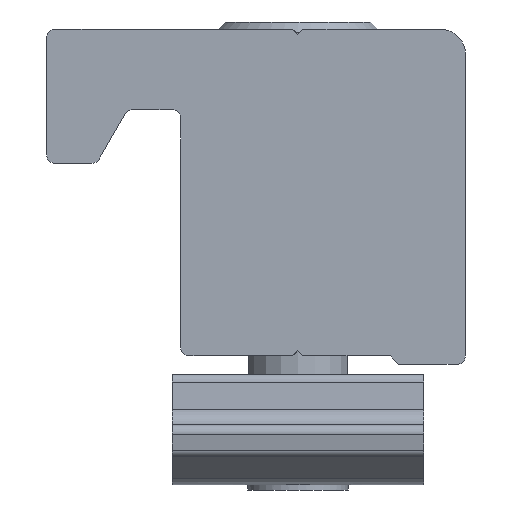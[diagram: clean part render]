
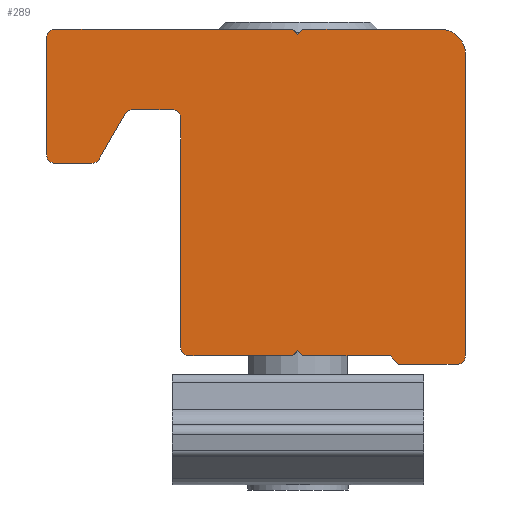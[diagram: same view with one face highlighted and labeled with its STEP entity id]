
A CAD part, front view. The second image highlights one B-rep face of the part: STEP entity #289.
In plain terms, the highlighted planar face has unit normal (0, -1, 0) as drawn and (0, 0, 1) by its records, which use the part's own axes.
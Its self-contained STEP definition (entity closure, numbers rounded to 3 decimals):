
#289=ADVANCED_FACE('',(#552),#553,.T.);
#552=FACE_OUTER_BOUND('',#814,.T.);
#553=PLANE('',#815);
#814=EDGE_LOOP('',(#1351,#1352,#1353,#1354,#1355,#1356,#1357,#1358,#1359,#1360,#1361,#1362,#1363,#1364,#1365,#1366,#1367,#1368,#1369,#1370,#1371,#1372,#1373,#1374));
#815=AXIS2_PLACEMENT_3D('',#1375,#1376,#1377);
#1351=ORIENTED_EDGE('',*,*,#1707,.T.);
#1352=ORIENTED_EDGE('',*,*,#1798,.T.);
#1353=ORIENTED_EDGE('',*,*,#1793,.T.);
#1354=ORIENTED_EDGE('',*,*,#1837,.T.);
#1355=ORIENTED_EDGE('',*,*,#1720,.T.);
#1356=ORIENTED_EDGE('',*,*,#1849,.T.);
#1357=ORIENTED_EDGE('',*,*,#1850,.T.);
#1358=ORIENTED_EDGE('',*,*,#1851,.T.);
#1359=ORIENTED_EDGE('',*,*,#1852,.T.);
#1360=ORIENTED_EDGE('',*,*,#1853,.T.);
#1361=ORIENTED_EDGE('',*,*,#1693,.T.);
#1362=ORIENTED_EDGE('',*,*,#1755,.T.);
#1363=ORIENTED_EDGE('',*,*,#1854,.T.);
#1364=ORIENTED_EDGE('',*,*,#1827,.T.);
#1365=ORIENTED_EDGE('',*,*,#1811,.T.);
#1366=ORIENTED_EDGE('',*,*,#1855,.T.);
#1367=ORIENTED_EDGE('',*,*,#1840,.T.);
#1368=ORIENTED_EDGE('',*,*,#1847,.T.);
#1369=ORIENTED_EDGE('',*,*,#1856,.T.);
#1370=ORIENTED_EDGE('',*,*,#1795,.T.);
#1371=ORIENTED_EDGE('',*,*,#1655,.T.);
#1372=ORIENTED_EDGE('',*,*,#1780,.T.);
#1373=ORIENTED_EDGE('',*,*,#1857,.T.);
#1374=ORIENTED_EDGE('',*,*,#1698,.T.);
#1375=CARTESIAN_POINT('',(426.491,-1259.442,-342.277));
#1376=DIRECTION('',(0.0,0.0,1.0));
#1377=DIRECTION('',(1.0,0.0,0.0));
#1655=EDGE_CURVE('',#1958,#1956,#1959,.T.);
#1693=EDGE_CURVE('',#2026,#2024,#2027,.T.);
#1698=EDGE_CURVE('',#2033,#2031,#2034,.T.);
#1707=EDGE_CURVE('',#2031,#2046,#2048,.T.);
#1720=EDGE_CURVE('',#2059,#2069,#2071,.T.);
#1755=EDGE_CURVE('',#2024,#2125,#2127,.T.);
#1780=EDGE_CURVE('',#1956,#2162,#2164,.T.);
#1793=EDGE_CURVE('',#2179,#2181,#2183,.T.);
#1795=EDGE_CURVE('',#2185,#1958,#2186,.T.);
#1798=EDGE_CURVE('',#2046,#2179,#2189,.T.);
#1811=EDGE_CURVE('',#2208,#2206,#2209,.T.);
#1827=EDGE_CURVE('',#2222,#2208,#2229,.T.);
#1837=EDGE_CURVE('',#2181,#2059,#2243,.T.);
#1840=EDGE_CURVE('',#2247,#2245,#2248,.T.);
#1847=EDGE_CURVE('',#2245,#2255,#2257,.T.);
#1849=EDGE_CURVE('',#2069,#2259,#2260,.T.);
#1850=EDGE_CURVE('',#2259,#2261,#2262,.T.);
#1851=EDGE_CURVE('',#2261,#2263,#2264,.T.);
#1852=EDGE_CURVE('',#2263,#2265,#2266,.T.);
#1853=EDGE_CURVE('',#2265,#2026,#2267,.T.);
#1854=EDGE_CURVE('',#2125,#2222,#2268,.T.);
#1855=EDGE_CURVE('',#2206,#2247,#2269,.T.);
#1856=EDGE_CURVE('',#2255,#2185,#2270,.T.);
#1857=EDGE_CURVE('',#2162,#2033,#2271,.T.);
#1956=VERTEX_POINT('',#2385);
#1958=VERTEX_POINT('',#2388);
#1959=CIRCLE('',#2389,0.5);
#2024=VERTEX_POINT('',#2478);
#2026=VERTEX_POINT('',#2481);
#2027=LINE('',#2482,#2483);
#2031=VERTEX_POINT('',#2489);
#2033=VERTEX_POINT('',#2492);
#2034=LINE('',#2493,#2494);
#2046=VERTEX_POINT('',#2509);
#2048=CIRCLE('',#2512,0.5);
#2059=VERTEX_POINT('',#2527);
#2069=VERTEX_POINT('',#2540);
#2071=LINE('',#2543,#2544);
#2125=VERTEX_POINT('',#2611);
#2127=LINE('',#2614,#2615);
#2162=VERTEX_POINT('',#2659);
#2164=LINE('',#2662,#2663);
#2179=VERTEX_POINT('',#2681);
#2181=VERTEX_POINT('',#2684);
#2183=LINE('',#2687,#2688);
#2185=VERTEX_POINT('',#2690);
#2186=LINE('',#2691,#2692);
#2189=LINE('',#2696,#2697);
#2206=VERTEX_POINT('',#2717);
#2208=VERTEX_POINT('',#2720);
#2209=CIRCLE('',#2721,0.5);
#2222=VERTEX_POINT('',#2737);
#2229=LINE('',#2747,#2748);
#2243=LINE('',#2774,#2775);
#2245=VERTEX_POINT('',#2777);
#2247=VERTEX_POINT('',#2780);
#2248=CIRCLE('',#2781,0.5);
#2255=VERTEX_POINT('',#2791);
#2257=LINE('',#2794,#2795);
#2259=VERTEX_POINT('',#2797);
#2260=LINE('',#2798,#2799);
#2261=VERTEX_POINT('',#2800);
#2262=LINE('',#2801,#2802);
#2263=VERTEX_POINT('',#2803);
#2264=CIRCLE('',#2804,0.5);
#2265=VERTEX_POINT('',#2805);
#2266=LINE('',#2806,#2807);
#2267=CIRCLE('',#2808,1.5);
#2268=LINE('',#2809,#2810);
#2269=LINE('',#2811,#2812);
#2270=CIRCLE('',#2813,0.5);
#2271=CIRCLE('',#2814,0.5);
#2385=CARTESIAN_POINT('',(423.127,-1245.242,-342.277));
#2388=CARTESIAN_POINT('',(422.694,-1245.492,-342.277));
#2389=AXIS2_PLACEMENT_3D('',#2939,#2940,#2941);
#2478=CARTESIAN_POINT('',(433.291,-1240.442,-342.277));
#2481=CARTESIAN_POINT('',(441.491,-1240.442,-342.277));
#2482=CARTESIAN_POINT('',(441.491,-1240.442,-342.277));
#2483=VECTOR('',#2991,1.0);
#2489=CARTESIAN_POINT('',(425.991,-1259.442,-342.277));
#2492=CARTESIAN_POINT('',(425.991,-1245.742,-342.277));
#2493=CARTESIAN_POINT('',(425.991,-1245.742,-342.277));
#2494=VECTOR('',#2995,1.0);
#2509=CARTESIAN_POINT('',(426.491,-1259.942,-342.277));
#2512=AXIS2_PLACEMENT_3D('',#3006,#3007,#3008);
#2527=CARTESIAN_POINT('',(433.291,-1259.942,-342.277));
#2540=CARTESIAN_POINT('',(438.491,-1259.942,-342.277));
#2543=CARTESIAN_POINT('',(433.291,-1259.942,-342.277));
#2544=VECTOR('',#3023,1.0);
#2611=CARTESIAN_POINT('',(432.991,-1240.742,-342.277));
#2614=CARTESIAN_POINT('',(433.291,-1240.442,-342.277));
#2615=VECTOR('',#3080,1.0);
#2659=CARTESIAN_POINT('',(425.491,-1245.242,-342.277));
#2662=CARTESIAN_POINT('',(423.127,-1245.242,-342.277));
#2663=VECTOR('',#3112,1.0);
#2681=CARTESIAN_POINT('',(432.691,-1259.942,-342.277));
#2684=CARTESIAN_POINT('',(432.991,-1259.642,-342.277));
#2687=CARTESIAN_POINT('',(432.691,-1259.942,-342.277));
#2688=VECTOR('',#3127,1.0);
#2690=CARTESIAN_POINT('',(421.135,-1248.192,-342.277));
#2691=CARTESIAN_POINT('',(421.135,-1248.192,-342.277));
#2692=VECTOR('',#3128,1.0);
#2696=CARTESIAN_POINT('',(426.491,-1259.942,-342.277));
#2697=VECTOR('',#3130,1.0);
#2717=CARTESIAN_POINT('',(417.991,-1240.942,-342.277));
#2720=CARTESIAN_POINT('',(418.491,-1240.442,-342.277));
#2721=AXIS2_PLACEMENT_3D('',#3147,#3148,#3149);
#2737=CARTESIAN_POINT('',(432.691,-1240.442,-342.277));
#2747=CARTESIAN_POINT('',(432.691,-1240.442,-342.277));
#2748=VECTOR('',#3168,1.0);
#2774=CARTESIAN_POINT('',(432.991,-1259.642,-342.277));
#2775=VECTOR('',#3178,1.0);
#2777=CARTESIAN_POINT('',(418.491,-1248.442,-342.277));
#2780=CARTESIAN_POINT('',(417.991,-1247.942,-342.277));
#2781=AXIS2_PLACEMENT_3D('',#3180,#3181,#3182);
#2791=CARTESIAN_POINT('',(420.702,-1248.442,-342.277));
#2794=CARTESIAN_POINT('',(418.491,-1248.442,-342.277));
#2795=VECTOR('',#3187,1.0);
#2797=CARTESIAN_POINT('',(438.991,-1260.442,-342.277));
#2798=CARTESIAN_POINT('',(438.491,-1259.942,-342.277));
#2799=VECTOR('',#3188,1.0);
#2800=CARTESIAN_POINT('',(442.491,-1260.442,-342.277));
#2801=CARTESIAN_POINT('',(438.991,-1260.442,-342.277));
#2802=VECTOR('',#3189,1.0);
#2803=CARTESIAN_POINT('',(442.991,-1259.942,-342.277));
#2804=AXIS2_PLACEMENT_3D('',#3190,#3191,#3192);
#2805=CARTESIAN_POINT('',(442.991,-1241.942,-342.277));
#2806=CARTESIAN_POINT('',(442.991,-1259.942,-342.277));
#2807=VECTOR('',#3193,1.0);
#2808=AXIS2_PLACEMENT_3D('',#3194,#3195,#3196);
#2809=CARTESIAN_POINT('',(432.991,-1240.742,-342.277));
#2810=VECTOR('',#3197,1.0);
#2811=CARTESIAN_POINT('',(417.991,-1240.942,-342.277));
#2812=VECTOR('',#3198,1.0);
#2813=AXIS2_PLACEMENT_3D('',#3199,#3200,#3201);
#2814=AXIS2_PLACEMENT_3D('',#3202,#3203,#3204);
#2939=CARTESIAN_POINT('',(423.127,-1245.742,-342.277));
#2940=DIRECTION('',(0.0,0.0,-1.0));
#2941=DIRECTION('',(-1.0,0.0,0.0));
#2991=DIRECTION('',(-1.0,0.0,0.0));
#2995=DIRECTION('',(0.0,-1.0,0.0));
#3006=CARTESIAN_POINT('',(426.491,-1259.442,-342.277));
#3007=DIRECTION('',(0.0,0.0,1.0));
#3008=DIRECTION('',(1.0,0.0,0.0));
#3023=DIRECTION('',(1.0,0.0,0.0));
#3080=DIRECTION('',(-0.707,-0.707,0.0));
#3112=DIRECTION('',(1.0,0.0,0.0));
#3127=DIRECTION('',(0.707,0.707,0.0));
#3128=DIRECTION('',(0.5,0.866,0.0));
#3130=DIRECTION('',(1.0,0.0,0.0));
#3147=CARTESIAN_POINT('',(418.491,-1240.942,-342.277));
#3148=DIRECTION('',(0.0,0.0,1.0));
#3149=DIRECTION('',(1.0,0.0,0.0));
#3168=DIRECTION('',(-1.0,0.0,0.0));
#3178=DIRECTION('',(0.707,-0.707,0.0));
#3180=CARTESIAN_POINT('',(418.491,-1247.942,-342.277));
#3181=DIRECTION('',(0.0,0.0,1.0));
#3182=DIRECTION('',(1.0,0.0,0.0));
#3187=DIRECTION('',(1.0,0.0,0.0));
#3188=DIRECTION('',(0.707,-0.707,0.0));
#3189=DIRECTION('',(1.0,0.0,0.0));
#3190=CARTESIAN_POINT('',(442.491,-1259.942,-342.277));
#3191=DIRECTION('',(0.0,0.0,1.0));
#3192=DIRECTION('',(1.0,0.0,0.0));
#3193=DIRECTION('',(0.0,1.0,0.0));
#3194=CARTESIAN_POINT('',(441.491,-1241.942,-342.277));
#3195=DIRECTION('',(0.0,0.0,1.0));
#3196=DIRECTION('',(1.0,0.0,0.0));
#3197=DIRECTION('',(-0.707,0.707,0.0));
#3198=DIRECTION('',(0.0,-1.0,0.0));
#3199=CARTESIAN_POINT('',(420.702,-1247.942,-342.277));
#3200=DIRECTION('',(0.0,0.0,1.0));
#3201=DIRECTION('',(1.0,0.0,0.0));
#3202=CARTESIAN_POINT('',(425.491,-1245.742,-342.277));
#3203=DIRECTION('',(0.0,0.0,-1.0));
#3204=DIRECTION('',(-1.0,0.0,0.0));
